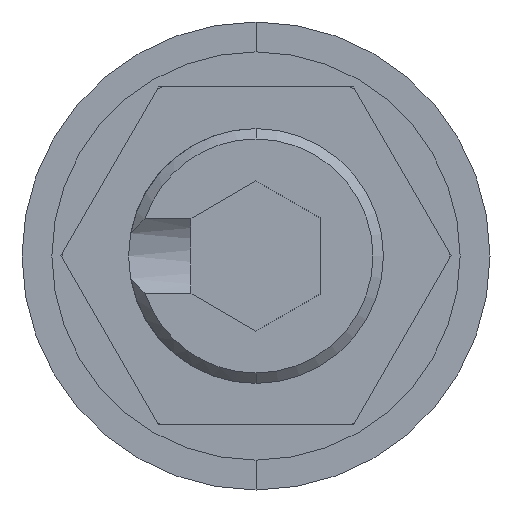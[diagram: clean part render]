
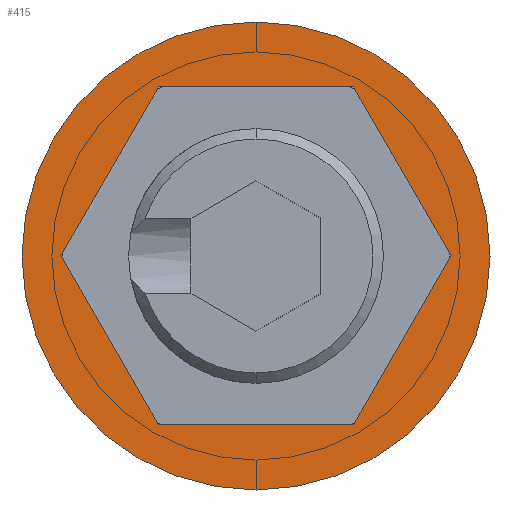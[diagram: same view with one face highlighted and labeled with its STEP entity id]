
A CAD part, front view. The second image highlights one B-rep face of the part: STEP entity #415.
In plain terms, the highlighted planar face has unit normal (0, -1, 0).
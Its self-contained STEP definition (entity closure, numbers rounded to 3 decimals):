
#2 = CARTESIAN_POINT ( 'NONE',  ( 1.876, 0., -3.25 ) ) ;
#69 = AXIS2_PLACEMENT_3D ( 'NONE', #1075, #1120, #1121 ) ;
#81 = CARTESIAN_POINT ( 'NONE',  ( 1.876, 0., -3.25 ) ) ;
#139 = VERTEX_POINT ( 'NONE', #732 ) ;
#154 = CARTESIAN_POINT ( 'NONE',  ( 3.753, 0., 0. ) ) ;
#193 = DIRECTION ( 'NONE',  ( -0.5, 0., 0.866 ) ) ;
#273 = ORIENTED_EDGE ( 'NONE', *, *, #1907, .F. ) ;
#415 = ADVANCED_FACE ( 'NONE', ( #1516, #1574 ), #1117, .T. ) ;
#419 = CARTESIAN_POINT ( 'NONE',  ( -3.753, 0., 0. ) ) ;
#486 = DIRECTION ( 'NONE',  ( 0.5, 0., -0.866 ) ) ;
#510 = VERTEX_POINT ( 'NONE', #1278 ) ;
#598 = CIRCLE ( 'NONE', #902, 4.5 ) ;
#612 = ORIENTED_EDGE ( 'NONE', *, *, #1890, .F. ) ;
#673 = VERTEX_POINT ( 'NONE', #2181 ) ;
#732 = CARTESIAN_POINT ( 'NONE',  ( 1.876, 0., 3.25 ) ) ;
#803 = ORIENTED_EDGE ( 'NONE', *, *, #1926, .T. ) ;
#808 = ORIENTED_EDGE ( 'NONE', *, *, #1267, .F. ) ;
#852 = VECTOR ( 'NONE', #1636, 1000. ) ;
#859 = ORIENTED_EDGE ( 'NONE', *, *, #2116, .T. ) ;
#864 = LINE ( 'NONE', #2, #852 ) ;
#875 = CIRCLE ( 'NONE', #1663, 4.5 ) ;
#892 = VERTEX_POINT ( 'NONE', #1674 ) ;
#902 = AXIS2_PLACEMENT_3D ( 'NONE', #2246, #2022, #1993 ) ;
#907 = EDGE_CURVE ( 'NONE', #1583, #1126, #1682, .T. ) ;
#924 = VECTOR ( 'NONE', #193, 1000. ) ;
#958 = LINE ( 'NONE', #154, #924 ) ;
#1075 = CARTESIAN_POINT ( 'NONE',  ( 0., 0., 0. ) ) ;
#1117 = PLANE ( 'NONE',  #69 ) ;
#1120 = DIRECTION ( 'NONE',  ( 0., -1., 0. ) ) ;
#1121 = DIRECTION ( 'NONE',  ( 0., 0., -1. ) ) ;
#1126 = VERTEX_POINT ( 'NONE', #81 ) ;
#1267 = EDGE_CURVE ( 'NONE', #673, #1583, #2255, .T. ) ;
#1278 = CARTESIAN_POINT ( 'NONE',  ( -1.876, 0., 3.25 ) ) ;
#1296 = CARTESIAN_POINT ( 'NONE',  ( 3.753, 0., 0. ) ) ;
#1432 = VECTOR ( 'NONE', #2052, 1000. ) ;
#1450 = VERTEX_POINT ( 'NONE', #1296 ) ;
#1466 = LINE ( 'NONE', #1913, #1432 ) ;
#1496 = DIRECTION ( 'NONE',  ( 0., 0., -1. ) ) ;
#1498 = CARTESIAN_POINT ( 'NONE',  ( -1.876, 0., 3.25 ) ) ;
#1499 = EDGE_CURVE ( 'NONE', #510, #673, #1924, .T. ) ;
#1505 = ORIENTED_EDGE ( 'NONE', *, *, #1499, .F. ) ;
#1510 = CARTESIAN_POINT ( 'NONE',  ( 0., 0., 0. ) ) ;
#1516 = FACE_BOUND ( 'NONE', #1855, .T. ) ;
#1518 = DIRECTION ( 'NONE',  ( -0.5, 0., -0.866 ) ) ;
#1574 = FACE_OUTER_BOUND ( 'NONE', #1637, .T. ) ;
#1581 = VERTEX_POINT ( 'NONE', #1743 ) ;
#1583 = VERTEX_POINT ( 'NONE', #1768 ) ;
#1636 = DIRECTION ( 'NONE',  ( 0.5, 0., 0.866 ) ) ;
#1637 = EDGE_LOOP ( 'NONE', ( #803, #859 ) ) ;
#1654 = VECTOR ( 'NONE', #1710, 1000. ) ;
#1663 = AXIS2_PLACEMENT_3D ( 'NONE', #1510, #1678, #1496 ) ;
#1674 = CARTESIAN_POINT ( 'NONE',  ( 0., 0., 4.5 ) ) ;
#1678 = DIRECTION ( 'NONE',  ( 0., -1., 0. ) ) ;
#1682 = LINE ( 'NONE', #1712, #1654 ) ;
#1710 = DIRECTION ( 'NONE',  ( 1., 0., 0. ) ) ;
#1712 = CARTESIAN_POINT ( 'NONE',  ( -1.876, 0., -3.25 ) ) ;
#1727 = EDGE_CURVE ( 'NONE', #139, #510, #1466, .T. ) ;
#1743 = CARTESIAN_POINT ( 'NONE',  ( 0., 0., -4.5 ) ) ;
#1768 = CARTESIAN_POINT ( 'NONE',  ( -1.876, 0., -3.25 ) ) ;
#1815 = VECTOR ( 'NONE', #1518, 1000. ) ;
#1855 = EDGE_LOOP ( 'NONE', ( #1968, #808, #1505, #2063, #612, #273 ) ) ;
#1890 = EDGE_CURVE ( 'NONE', #1450, #139, #958, .T. ) ;
#1907 = EDGE_CURVE ( 'NONE', #1126, #1450, #864, .T. ) ;
#1913 = CARTESIAN_POINT ( 'NONE',  ( 1.876, 0., 3.25 ) ) ;
#1924 = LINE ( 'NONE', #1498, #1815 ) ;
#1926 = EDGE_CURVE ( 'NONE', #1581, #892, #875, .T. ) ;
#1968 = ORIENTED_EDGE ( 'NONE', *, *, #907, .F. ) ;
#1993 = DIRECTION ( 'NONE',  ( 0., 0., -1. ) ) ;
#2022 = DIRECTION ( 'NONE',  ( 0., -1., 0. ) ) ;
#2052 = DIRECTION ( 'NONE',  ( -1., 0., 0. ) ) ;
#2063 = ORIENTED_EDGE ( 'NONE', *, *, #1727, .F. ) ;
#2116 = EDGE_CURVE ( 'NONE', #892, #1581, #598, .T. ) ;
#2181 = CARTESIAN_POINT ( 'NONE',  ( -3.753, 0., 0. ) ) ;
#2216 = VECTOR ( 'NONE', #486, 1000. ) ;
#2246 = CARTESIAN_POINT ( 'NONE',  ( 0., 0., 0. ) ) ;
#2255 = LINE ( 'NONE', #419, #2216 ) ;
